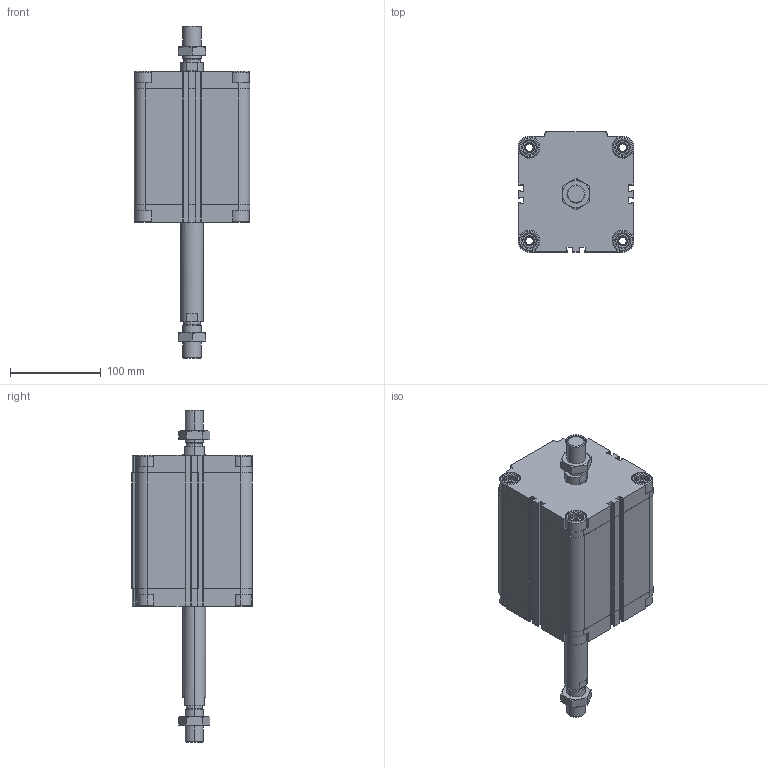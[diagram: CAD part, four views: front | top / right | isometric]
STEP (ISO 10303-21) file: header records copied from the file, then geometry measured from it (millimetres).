
FILE_DESCRIPTION (( 'STEP AP203' ), '1' );
FILE_NAME ('CDVU100-100M-P.STEP', '2020-07-21T16:40:19', ( '' ), ( '' ), 'SwSTEP 2.0', 'SolidWorks 2019', '' );
FILE_SCHEMA (( 'CONFIG_CONTROL_DESIGN' ));
Length unit declared in the file: millimetre
Products named in the file (1): CDVU100-100M-P
Bounding box: 128 x 133 x 366.5 mm (x, y, z)
Volume: 1971438.6 mm3; surface area: 268804.3 mm2
Topology: 4 solids, 4 shells, 706 faces, 1888 edges, 1234 vertices
Faces by surface type: plane 410, cylinder 216, cone 80
Entity records: 23055 total; most frequent: CARTESIAN_POINT 5265, ORIENTED_EDGE 3768, DIRECTION 3610, EDGE_CURVE 1884, AXIS2_PLACEMENT_3D 1235, VERTEX_POINT 1234, LINE 1140, VECTOR 1140
